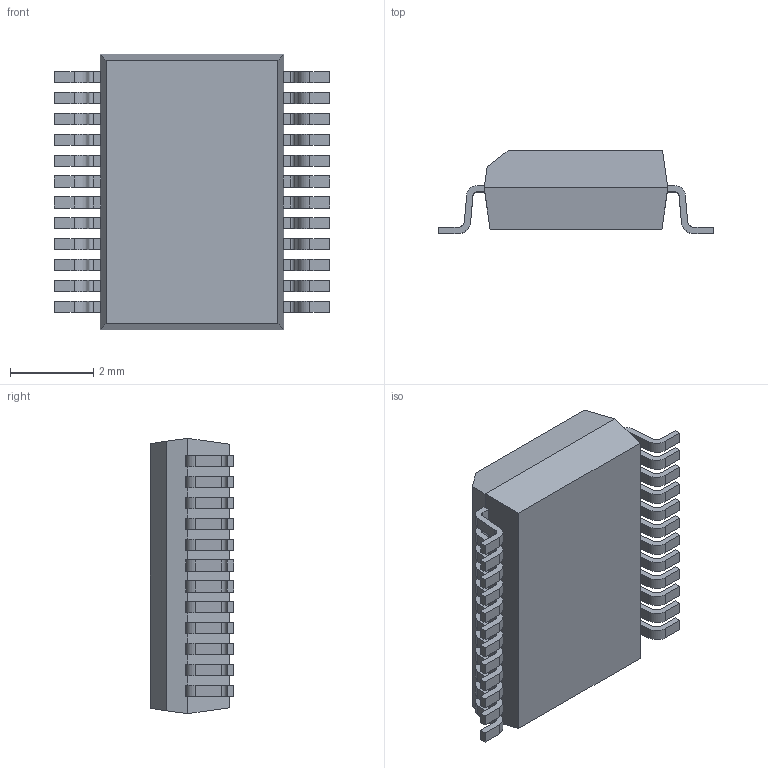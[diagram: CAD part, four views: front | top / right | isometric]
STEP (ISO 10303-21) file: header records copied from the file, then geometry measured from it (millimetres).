
FILE_DESCRIPTION (( 'STEP AP214' ), '1' );
FILE_NAME ('SSOP50P640X200-24_MO-152.BB.STEP', '2014-10-30T11:25:43', ( 'Tester2' ), ( '' ), 'SwSTEP 2.0', 'SolidWorks 2012', '' );
FILE_SCHEMA (( 'AUTOMOTIVE_DESIGN' ));
Length unit declared in the file: millimetre
Products named in the file (1): SSOP50P640X200-24_MO-152.BB
Bounding box: 6.6 x 2 x 6.6 mm (x, y, z)
Volume: 53.6 mm3; surface area: 130.1 mm2
Topology: 1 solids, 1 shells, 326 faces, 965 edges, 642 vertices
Faces by surface type: plane 228, cylinder 98
Entity records: 14352 total; most frequent: CARTESIAN_POINT 1934, ORIENTED_EDGE 1930, DIRECTION 1815, EDGE_CURVE 965, LINE 769, VECTOR 769, VERTEX_POINT 642, AXIS2_PLACEMENT_3D 523
